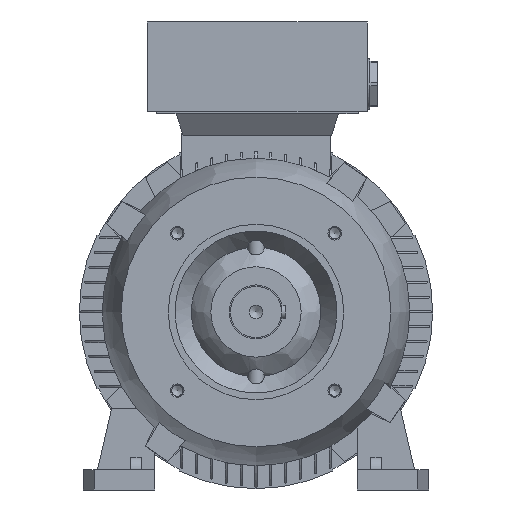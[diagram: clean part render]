
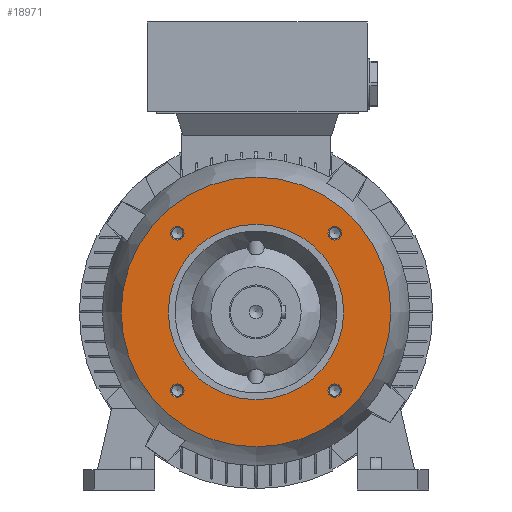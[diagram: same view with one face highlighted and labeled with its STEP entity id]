
A CAD part, left-side view. The second image highlights one B-rep face of the part: STEP entity #18971.
In plain terms, the highlighted planar face has unit normal (-1, 0, 0).
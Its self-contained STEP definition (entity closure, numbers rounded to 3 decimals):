
#181 = DIRECTION ( 'NONE',  ( 1., 0., 0. ) ) ;
#405 = CIRCLE ( 'NONE', #8834, 100. ) ;
#505 = DIRECTION ( 'NONE',  ( -1., 0., 0. ) ) ;
#788 = DIRECTION ( 'NONE',  ( 1., 0., 0. ) ) ;
#905 = VERTEX_POINT ( 'NONE', #9248 ) ;
#981 = VERTEX_POINT ( 'NONE', #7297 ) ;
#984 = VERTEX_POINT ( 'NONE', #18672 ) ;
#1005 = VERTEX_POINT ( 'NONE', #5338 ) ;
#1227 = VERTEX_POINT ( 'NONE', #3357 ) ;
#1252 = VERTEX_POINT ( 'NONE', #14870 ) ;
#2226 = ORIENTED_EDGE ( 'NONE', *, *, #12008, .T. ) ;
#2465 = ORIENTED_EDGE ( 'NONE', *, *, #9411, .T. ) ;
#3357 = CARTESIAN_POINT ( 'NONE',  ( -50.5, 58.336, -53.336 ) ) ;
#4557 = ORIENTED_EDGE ( 'NONE', *, *, #12147, .T. ) ;
#4613 = ORIENTED_EDGE ( 'NONE', *, *, #15562, .F. ) ;
#5077 = ORIENTED_EDGE ( 'NONE', *, *, #9405, .T. ) ;
#5338 = CARTESIAN_POINT ( 'NONE',  ( -50.5, 58.336, 63.336 ) ) ;
#5393 = CARTESIAN_POINT ( 'NONE',  ( -50.5, 0., 0. ) ) ;
#5396 = AXIS2_PLACEMENT_3D ( 'NONE', #19580, #505, #14036 ) ;
#5406 = ORIENTED_EDGE ( 'NONE', *, *, #12175, .T. ) ;
#7297 = CARTESIAN_POINT ( 'NONE',  ( -50.5, 0., 65. ) ) ;
#7362 = DIRECTION ( 'NONE',  ( 0., 0., -1. ) ) ;
#8538 = EDGE_LOOP ( 'NONE', ( #5077 ) ) ;
#8578 = DIRECTION ( 'NONE',  ( 1., 0., 0. ) ) ;
#8644 = DIRECTION ( 'NONE',  ( 1., 0., 0. ) ) ;
#8834 = AXIS2_PLACEMENT_3D ( 'NONE', #5393, #18747, #7362 ) ;
#9248 = CARTESIAN_POINT ( 'NONE',  ( -50.5, 0., -100. ) ) ;
#9405 = EDGE_CURVE ( 'NONE', #1252, #1252, #20849, .T. ) ;
#9411 = EDGE_CURVE ( 'NONE', #1227, #1227, #20603, .T. ) ;
#10497 = DIRECTION ( 'NONE',  ( 1., 0., 0. ) ) ;
#10734 = AXIS2_PLACEMENT_3D ( 'NONE', #19997, #8644, #21877 ) ;
#10771 = AXIS2_PLACEMENT_3D ( 'NONE', #21797, #10497, #23697 ) ;
#10857 = AXIS2_PLACEMENT_3D ( 'NONE', #11870, #181, #13733 ) ;
#11096 = EDGE_LOOP ( 'NONE', ( #4613 ) ) ;
#11609 = CIRCLE ( 'NONE', #10734, 65. ) ;
#11870 = CARTESIAN_POINT ( 'NONE',  ( -50.5, 58.336, 58.336 ) ) ;
#11959 = CIRCLE ( 'NONE', #10771, 5. ) ;
#12008 = EDGE_CURVE ( 'NONE', #1005, #1005, #12030, .T. ) ;
#12030 = CIRCLE ( 'NONE', #10857, 5. ) ;
#12147 = EDGE_CURVE ( 'NONE', #984, #984, #11959, .T. ) ;
#12174 = PLANE ( 'NONE',  #5396 ) ;
#12175 = EDGE_CURVE ( 'NONE', #981, #981, #11609, .T. ) ;
#12449 = CARTESIAN_POINT ( 'NONE',  ( -50.5, 58.336, -58.336 ) ) ;
#12537 = FACE_BOUND ( 'NONE', #8538, .T. ) ;
#12565 = FACE_BOUND ( 'NONE', #15754, .T. ) ;
#12632 = FACE_BOUND ( 'NONE', #22810, .T. ) ;
#12652 = FACE_OUTER_BOUND ( 'NONE', #11096, .T. ) ;
#12753 = FACE_BOUND ( 'NONE', #15442, .T. ) ;
#12764 = AXIS2_PLACEMENT_3D ( 'NONE', #12449, #788, #14316 ) ;
#12834 = AXIS2_PLACEMENT_3D ( 'NONE', #19935, #8578, #21824 ) ;
#12840 = FACE_BOUND ( 'NONE', #15272, .T. ) ;
#13733 = DIRECTION ( 'NONE',  ( 0., 0., 1. ) ) ;
#14036 = DIRECTION ( 'NONE',  ( 0., 0., 1. ) ) ;
#14316 = DIRECTION ( 'NONE',  ( 0., 0., 1. ) ) ;
#14870 = CARTESIAN_POINT ( 'NONE',  ( -50.5, -58.336, -53.336 ) ) ;
#15272 = EDGE_LOOP ( 'NONE', ( #4557 ) ) ;
#15442 = EDGE_LOOP ( 'NONE', ( #2226 ) ) ;
#15562 = EDGE_CURVE ( 'NONE', #905, #905, #405, .T. ) ;
#15754 = EDGE_LOOP ( 'NONE', ( #2465 ) ) ;
#18672 = CARTESIAN_POINT ( 'NONE',  ( -50.5, -58.336, 63.336 ) ) ;
#18747 = DIRECTION ( 'NONE',  ( 1., 0., 0. ) ) ;
#18971 = ADVANCED_FACE ( 'NONE', ( #12632, #12652, #12840, #12753, #12565, #12537 ), #12174, .T. ) ;
#19580 = CARTESIAN_POINT ( 'NONE',  ( -50.5, 0., 82.5 ) ) ;
#19935 = CARTESIAN_POINT ( 'NONE',  ( -50.5, -58.336, -58.336 ) ) ;
#19997 = CARTESIAN_POINT ( 'NONE',  ( -50.5, 0., 0. ) ) ;
#20603 = CIRCLE ( 'NONE', #12764, 5. ) ;
#20849 = CIRCLE ( 'NONE', #12834, 5. ) ;
#21797 = CARTESIAN_POINT ( 'NONE',  ( -50.5, -58.336, 58.336 ) ) ;
#21824 = DIRECTION ( 'NONE',  ( 0., 0., 1. ) ) ;
#21877 = DIRECTION ( 'NONE',  ( 0., 0., 1. ) ) ;
#22810 = EDGE_LOOP ( 'NONE', ( #5406 ) ) ;
#23697 = DIRECTION ( 'NONE',  ( 0., 0., 1. ) ) ;
